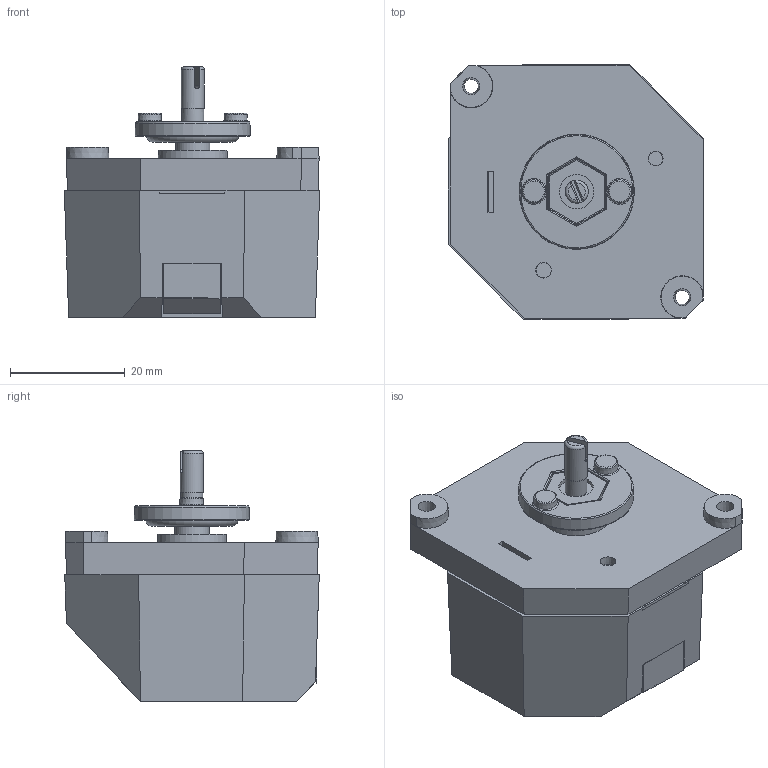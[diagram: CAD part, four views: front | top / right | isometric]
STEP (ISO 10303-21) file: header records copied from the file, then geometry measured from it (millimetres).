
FILE_DESCRIPTION(/* description */ ('Unknown'),/* implementation_level */ '2;1');
FILE_NAME(/* name */ 'DALI-ROT-CH-PS',/* time_stamp */ '2023-07-15T22:10:04+02:00',/* author */ ('Unknown'),/* organization */ ('Unknown'),/* preprocessor_version */ 'ST-DEVELOPER v16.7',/* originating_system */ 'DEX',/* authorisation */ $);
FILE_SCHEMA (('AUTOMOTIVE_DESIGN {1 0 10303 214 3 1 1}'));
Length unit declared in the file: millimetre
Products named in the file (3): AsmRotaryPSandHousing; asmROTCHPS; Mutter
Assembly tree (2 placements, depth 2):
  AsmRotaryPSandHousing
    asmROTCHPS
    Mutter
Bounding box: 44.5 x 44.33 x 43.6 mm (x, y, z)
Volume: 42236 mm3; surface area: 12735.2 mm2
Topology: 2 solids, 2 shells, 311 faces, 817 edges, 525 vertices
Faces by surface type: plane 233, cylinder 44, cone 23, torus 9, bspline 2
Full cylindrical faces by diameter (mm): 3.8 x1, 4 x1, 6 x3, 7.241 x1
Entity records: 11515 total; most frequent: CARTESIAN_POINT 1754, ORIENTED_EDGE 1560, DIRECTION 1494, EDGE_CURVE 780, LINE 618, VECTOR 618, VERTEX_POINT 510, AXIS2_PLACEMENT_3D 438
